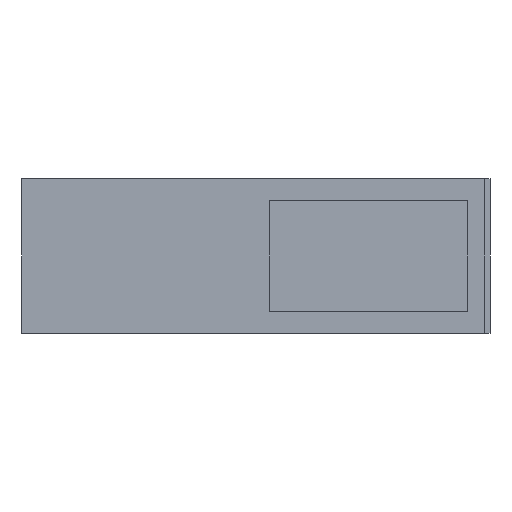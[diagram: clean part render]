
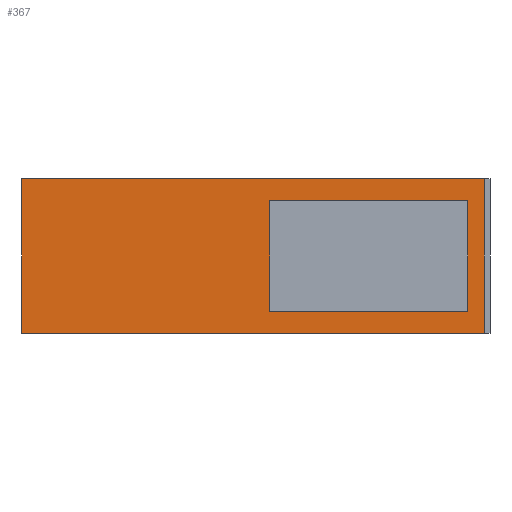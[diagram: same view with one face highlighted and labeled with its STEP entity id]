
A CAD part, left-side view. The second image highlights one B-rep face of the part: STEP entity #367.
In plain terms, the highlighted planar face has unit normal (-1, 0, 0).
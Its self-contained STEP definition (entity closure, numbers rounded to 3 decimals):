
#227 = VERTEX_POINT( '', #553 );
#231 = EDGE_CURVE( '', #321, #227, #558, .T. );
#241 = EDGE_CURVE( '', #443, #321, #570, .T. );
#249 = VERTEX_POINT( '', #578 );
#257 = VERTEX_POINT( '', #587 );
#271 = VERTEX_POINT( '', #602 );
#275 = EDGE_CURVE( '', #257, #401, #606, .T. );
#277 = EDGE_CURVE( '', #271, #257, #608, .T. );
#287 = EDGE_CURVE( '', #401, #249, #619, .T. );
#313 = EDGE_CURVE( '', #463, #443, #653, .T. );
#321 = VERTEX_POINT( '', #661 );
#367 = ADVANCED_FACE( '', ( #715, #716 ), #717, .F. );
#401 = VERTEX_POINT( '', #756 );
#405 = EDGE_CURVE( '', #227, #463, #760, .T. );
#443 = VERTEX_POINT( '', #802 );
#463 = VERTEX_POINT( '', #823 );
#475 = EDGE_CURVE( '', #249, #271, #835, .T. );
#553 = CARTESIAN_POINT( '', ( -10., -22.5, -5. ) );
#558 = LINE( '', #931, #932 );
#570 = LINE( '', #949, #950 );
#578 = CARTESIAN_POINT( '', ( -10., 0., -7. ) );
#587 = CARTESIAN_POINT( '', ( -10., -42., 7. ) );
#602 = CARTESIAN_POINT( '', ( -10., 0., 7. ) );
#606 = LINE( '', #1005, #1006 );
#608 = LINE( '', #1009, #1010 );
#619 = LINE( '', #1028, #1029 );
#653 = LINE( '', #1069, #1070 );
#661 = CARTESIAN_POINT( '', ( -10., -22.5, 5. ) );
#715 = FACE_OUTER_BOUND( '', #1150, .T. );
#716 = FACE_BOUND( '', #1151, .T. );
#717 = PLANE( '', #1152 );
#756 = CARTESIAN_POINT( '', ( -10., -42., -7. ) );
#760 = LINE( '', #1208, #1209 );
#802 = CARTESIAN_POINT( '', ( -10., -40.5, 5. ) );
#823 = CARTESIAN_POINT( '', ( -10., -40.5, -5. ) );
#835 = LINE( '', #1317, #1318 );
#931 = CARTESIAN_POINT( '', ( -10., -22.5, -2.5 ) );
#932 = VECTOR( '', #1379, 1. );
#949 = CARTESIAN_POINT( '', ( -10., -11.25, 5. ) );
#950 = VECTOR( '', #1392, 1. );
#1005 = CARTESIAN_POINT( '', ( -10., -42., 7. ) );
#1006 = VECTOR( '', #1423, 1. );
#1009 = CARTESIAN_POINT( '', ( -10., 0., 7. ) );
#1010 = VECTOR( '', #1424, 1. );
#1028 = CARTESIAN_POINT( '', ( -10., -42., -7. ) );
#1029 = VECTOR( '', #1436, 1. );
#1069 = CARTESIAN_POINT( '', ( -10., -40.5, 2.5 ) );
#1070 = VECTOR( '', #1494, 1. );
#1150 = EDGE_LOOP( '', ( #1572, #1573, #1574, #1575 ) );
#1151 = EDGE_LOOP( '', ( #1576, #1577, #1578, #1579 ) );
#1152 = AXIS2_PLACEMENT_3D( '', #1580, #1581, #1582 );
#1208 = CARTESIAN_POINT( '', ( -10., -20.25, -5. ) );
#1209 = VECTOR( '', #1621, 1. );
#1317 = CARTESIAN_POINT( '', ( -10., 0., -7. ) );
#1318 = VECTOR( '', #1687, 1. );
#1379 = DIRECTION( '', ( 0., 0., -1. ) );
#1392 = DIRECTION( '', ( 0., 1., 0. ) );
#1423 = DIRECTION( '', ( 0., 0., -1. ) );
#1424 = DIRECTION( '', ( 0., -1., 0. ) );
#1436 = DIRECTION( '', ( 0., 1., 0. ) );
#1494 = DIRECTION( '', ( 0., 0., 1. ) );
#1572 = ORIENTED_EDGE( '', *, *, #287, .F. );
#1573 = ORIENTED_EDGE( '', *, *, #275, .F. );
#1574 = ORIENTED_EDGE( '', *, *, #277, .F. );
#1575 = ORIENTED_EDGE( '', *, *, #475, .F. );
#1576 = ORIENTED_EDGE( '', *, *, #241, .F. );
#1577 = ORIENTED_EDGE( '', *, *, #313, .F. );
#1578 = ORIENTED_EDGE( '', *, *, #405, .F. );
#1579 = ORIENTED_EDGE( '', *, *, #231, .F. );
#1580 = CARTESIAN_POINT( '', ( -10., 0., 0. ) );
#1581 = DIRECTION( '', ( 1., 0., 0. ) );
#1582 = DIRECTION( '', ( 0., 0., -1. ) );
#1621 = DIRECTION( '', ( 0., -1., 0. ) );
#1687 = DIRECTION( '', ( 0., 0., 1. ) );
